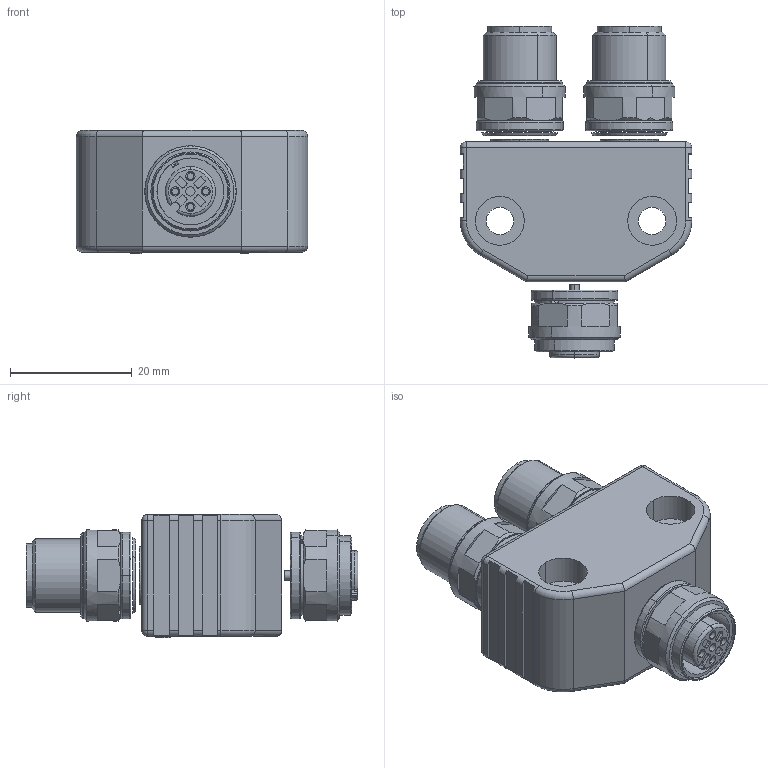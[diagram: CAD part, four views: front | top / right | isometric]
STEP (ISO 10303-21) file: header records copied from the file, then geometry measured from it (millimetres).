
FILE_DESCRIPTION (( 'STEP AP203' ), '1' );
FILE_NAME ('6930561 VB2-FKM4.4-2FSM4.STEP', '2017-07-21T06:14:27', ( 'User' ), ( '' ), 'SwSTEP 2.0', 'SolidWorks 2016', '' );
FILE_SCHEMA (( 'CONFIG_CONTROL_DESIGN' ));
Length unit declared in the file: millimetre
Products named in the file (1): 6930561 VB2-FKM4.4-2FSM4
Bounding box: 38 x 54.5 x 20.2 mm (x, y, z)
Surface area: 8148 mm2 (no closed solid volume)
Topology: 0 solids, 23 shells, 428 faces, 1166 edges, 768 vertices
Faces by surface type: plane 181, cylinder 136, cone 61, bspline 27, torus 19, sphere 4
Entity records: 14302 total; most frequent: CARTESIAN_POINT 3426, DIRECTION 2295, ORIENTED_EDGE 2158, EDGE_CURVE 1162, AXIS2_PLACEMENT_3D 857, VERTEX_POINT 768, VECTOR 581, LINE 581
